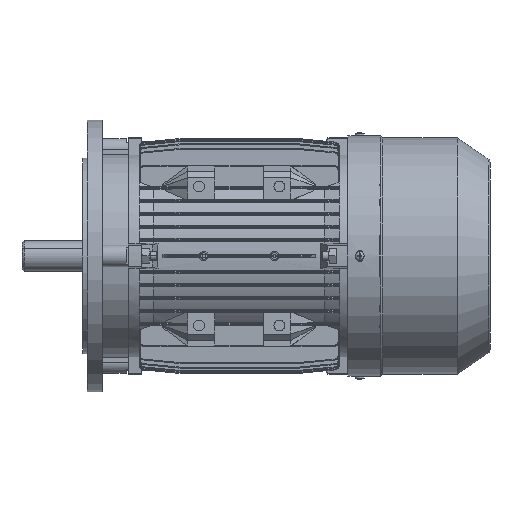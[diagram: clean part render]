
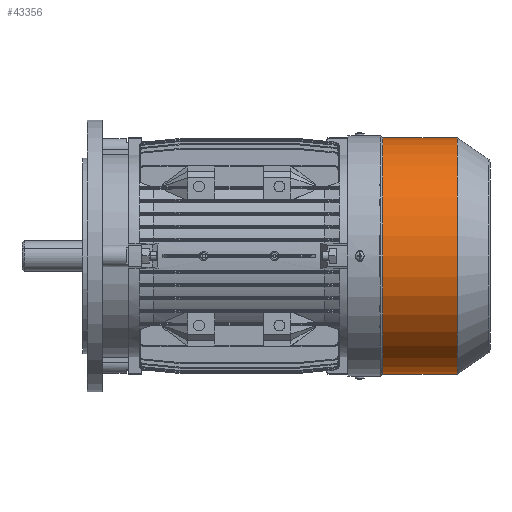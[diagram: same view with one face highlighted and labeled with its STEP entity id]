
A CAD part, front view. The second image highlights one B-rep face of the part: STEP entity #43356.
In plain terms, the highlighted cylindrical face has radius 108.7 mm (diameter 217.4 mm), a partial arc.
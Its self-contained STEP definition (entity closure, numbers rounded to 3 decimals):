
#610 = VERTEX_POINT ( 'NONE', #2938 ) ;
#2938 = CARTESIAN_POINT ( 'NONE',  ( 127.998, 4.229, -108.7 ) ) ;
#6650 = EDGE_LOOP ( 'NONE', ( #23022, #67187, #7195, #77149 ) ) ;
#7130 = LINE ( 'NONE', #75444, #117895 ) ;
#7195 = ORIENTED_EDGE ( 'NONE', *, *, #90109, .T. ) ;
#16032 = VERTEX_POINT ( 'NONE', #52809 ) ;
#17227 = CARTESIAN_POINT ( 'NONE',  ( 196.998, 4.185, 108.7 ) ) ;
#22153 = CIRCLE ( 'NONE', #93324, 108.7 ) ;
#23022 = ORIENTED_EDGE ( 'NONE', *, *, #110431, .F. ) ;
#23253 = CIRCLE ( 'NONE', #108665, 108.7 ) ;
#24475 = CARTESIAN_POINT ( 'NONE',  ( 196.998, 4.207, 0. ) ) ;
#40073 = VERTEX_POINT ( 'NONE', #65004 ) ;
#40469 = EDGE_CURVE ( 'NONE', #610, #16032, #22153, .T. ) ;
#40530 = DIRECTION ( 'NONE',  ( -1., 0., 0. ) ) ;
#43356 = ADVANCED_FACE ( 'NONE', ( #88769 ), #146687, .T. ) ;
#44865 = CARTESIAN_POINT ( 'NONE',  ( 95.998, 4.207, 0. ) ) ;
#47544 = VECTOR ( 'NONE', #119824, 1000. ) ;
#52809 = CARTESIAN_POINT ( 'NONE',  ( 127.998, 4.185, 108.7 ) ) ;
#65004 = CARTESIAN_POINT ( 'NONE',  ( 196.998, 4.229, -108.7 ) ) ;
#67187 = ORIENTED_EDGE ( 'NONE', *, *, #132113, .T. ) ;
#68643 = DIRECTION ( 'NONE',  ( -1., 0., 0. ) ) ;
#75444 = CARTESIAN_POINT ( 'NONE',  ( 95.998, 4.185, 108.7 ) ) ;
#75806 = AXIS2_PLACEMENT_3D ( 'NONE', #44865, #68643, #90238 ) ;
#77149 = ORIENTED_EDGE ( 'NONE', *, *, #40469, .F. ) ;
#82355 = DIRECTION ( 'NONE',  ( -1., 0., 0. ) ) ;
#87889 = CARTESIAN_POINT ( 'NONE',  ( 127.998, 4.207, 0. ) ) ;
#88769 = FACE_OUTER_BOUND ( 'NONE', #6650, .T. ) ;
#90109 = EDGE_CURVE ( 'NONE', #101755, #16032, #7130, .T. ) ;
#90238 = DIRECTION ( 'NONE',  ( 0., 0., 1. ) ) ;
#93324 = AXIS2_PLACEMENT_3D ( 'NONE', #87889, #143605, #119870 ) ;
#97530 = CARTESIAN_POINT ( 'NONE',  ( 95.998, 4.229, -108.7 ) ) ;
#101755 = VERTEX_POINT ( 'NONE', #17227 ) ;
#108665 = AXIS2_PLACEMENT_3D ( 'NONE', #24475, #82355, #125535 ) ;
#110431 = EDGE_CURVE ( 'NONE', #40073, #610, #128785, .T. ) ;
#117895 = VECTOR ( 'NONE', #40530, 1000. ) ;
#119824 = DIRECTION ( 'NONE',  ( -1., 0., 0. ) ) ;
#119870 = DIRECTION ( 'NONE',  ( 0., 0., 1. ) ) ;
#125535 = DIRECTION ( 'NONE',  ( 0., 0., 1. ) ) ;
#128785 = LINE ( 'NONE', #97530, #47544 ) ;
#132113 = EDGE_CURVE ( 'NONE', #40073, #101755, #23253, .T. ) ;
#143605 = DIRECTION ( 'NONE',  ( -1., 0., 0. ) ) ;
#146687 = CYLINDRICAL_SURFACE ( 'NONE', #75806, 108.7 ) ;
